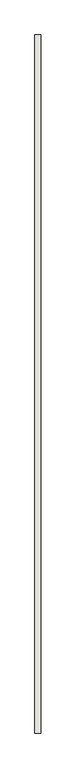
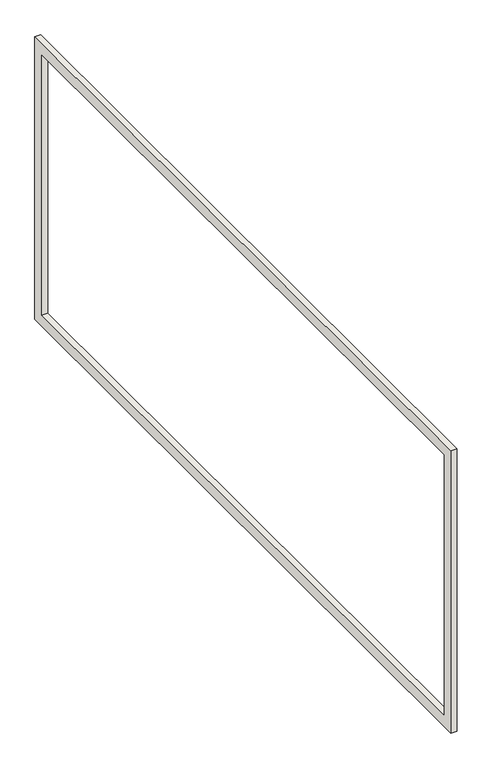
"""IFC4 building model written with IfcOpenShell, lengths in millimetres: wall geometry, 字框1 : 字框."""

from ifc_helpers import new_model, si_unit, frame, origin, place, context, project, spatial, polyline, outline, extrude, source, transform, mapped, element, save


def wall_060ecb6b(model_context):
    return source(origin(), model_context, "Body", "SweptSolid", [
        extrude(outline(polyline([(3085.016625, 500.0), (4292.016625, 500.0), (4292.016625, 0.0), (3085.016625, 0.0), (3085.016625, 500.0)]), holes=[polyline([(3105.016625, 480.0), (3105.016625, 20.0), (4272.016625, 20.0), (4272.016625, 480.0), (3105.016625, 480.0)])]), frame((3009.1580578, 0.0, 0.0), z_axis=(1.0, 0.0, 0.0), x_axis=(0.0, 1.0, 0.0)), (0.0, 0.0, 1.0), 10.0),
    ])


if __name__ == "__main__":
    model = new_model("IFC4")
    model_context = context("Model", 3, world=origin())
    ifc_project = project(units=[si_unit("LENGTHUNIT", "METRE", prefix="MILLI")], contexts=[model_context])
    site = spatial("IfcSite", under=ifc_project)
    building = spatial("IfcBuilding", under=site)
    placement = place(None, origin())
    wall_shape = wall_060ecb6b(model_context)
    element("IfcWall", 1, ObjectType="字框1 : 字框", at=placement, inside=building, context=model_context, shape_type="MappedRepresentation", body=[
        mapped(wall_shape, transform((0.0, 0.0, 0.0), x_axis=(1.0, 0.0, 0.0), y_axis=(0.0, 1.0, 0.0), z_axis=(0.0, 0.0, 1.0))),
    ])
    save(model, "model.ifc")
